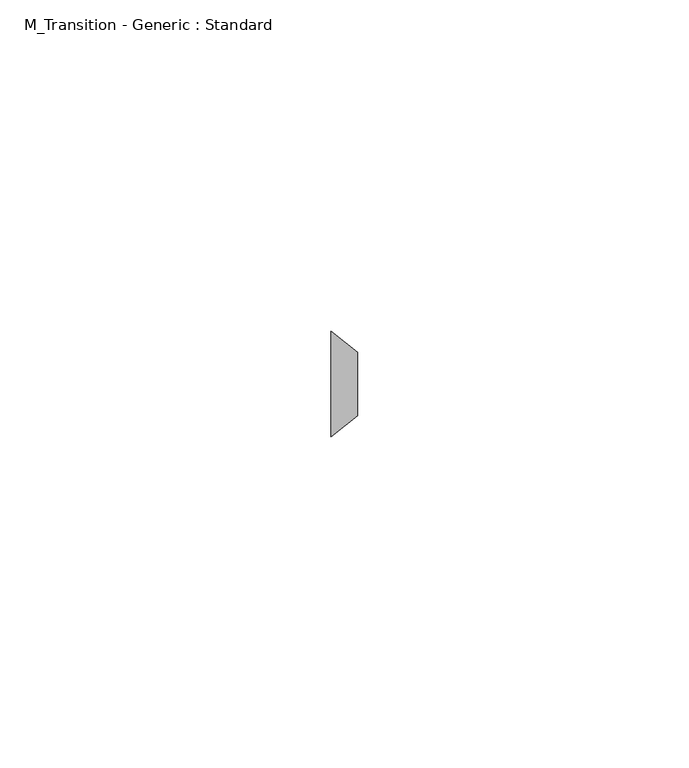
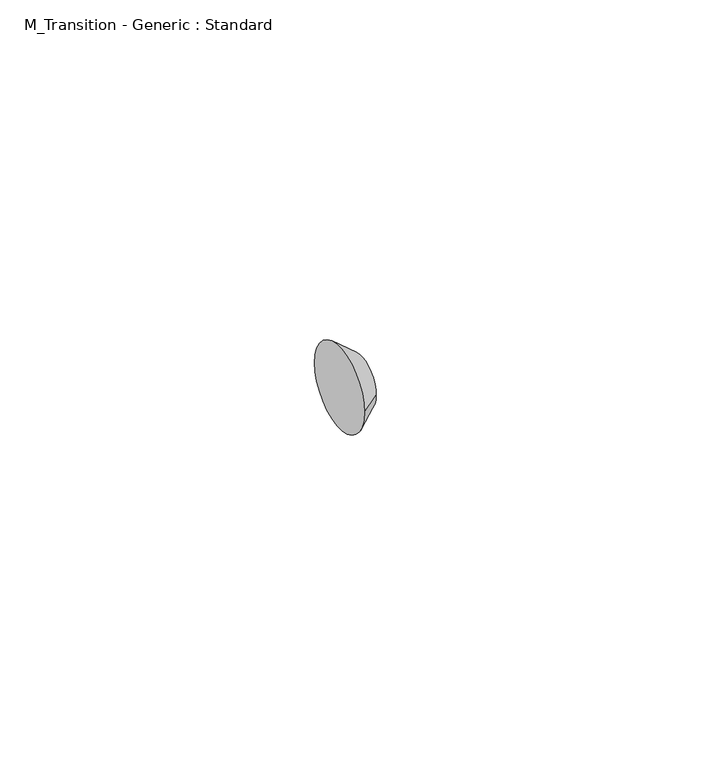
"""IFC4 building model written with IfcOpenShell, lengths in millimetres: pipe fitting geometry, M_Transition - Generic : Standard."""

from ifc_helpers import new_model, si_unit, frame, origin, place, context, project, spatial, polyline, circle_curve, source, transform, mapped, element, save
from ifc_brep_helpers import plane_surface, revolved_surface, advanced_brep


def m_transition_generic_standard_2d362458(model_context):
    return source(origin(), model_context, "Body", "AdvancedBrep", [
        advanced_brep(
        [(3.96875, 4.7875, 0.0), (3.96875, -4.7875, 0.0), (0.0, 7.9375, 0.0), (0.0, -7.9375, 0.0)],
        [
            (0, 1, circle_curve(frame((3.96875, 0.0, 0.0), z_axis=(1.0, 1.091393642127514e-12, 1.4029942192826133e-12), x_axis=(1.0913254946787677e-12, -1.0, 0.0)), 4.7875)),
            (1, 0, circle_curve(frame((3.96875, 0.0, 0.0), z_axis=(1.0, 1.091393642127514e-12, 1.4029942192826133e-12), x_axis=(-1.091325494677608e-12, 1.0, 0.0)), 4.7875)),
            (2, 3, circle_curve(frame((0.0, 0.0, 0.0), z_axis=(-1.0, -1.091393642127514e-12, -1.4029942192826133e-12), x_axis=(-1.091325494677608e-12, 1.0, 0.0)), 7.9375)),
            (3, 2, circle_curve(frame((0.0, 0.0, 0.0), z_axis=(-1.0, -1.091393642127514e-12, -1.4029942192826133e-12), x_axis=(1.0913254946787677e-12, -1.0, 0.0)), 7.9375)),
            (2, 0),
            (1, 3),
        ],
        [
            plane_surface(frame((3.96875, 0.0, 0.0), z_axis=(1.0, 0.0, 0.0), x_axis=(0.0, 0.0, -1.0))),
            plane_surface(frame((0.0, 0.0, 0.0), z_axis=(-1.0, 0.0, 0.0), x_axis=(0.0, 0.0, -1.0))),
            revolved_surface(polyline([(3.96875, 4.787499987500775, 0.0), (-1.7326584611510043e-11, 7.9375000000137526, 0.0)]), (10.00062, 0.0, 0.0), (-1.0, -1.091393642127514e-12, -1.4029942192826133e-12)),
            revolved_surface(polyline([(3.9687500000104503, -4.787499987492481, 0.0), (0.0, -7.9375, 0.0)]), (10.00062, 0.0, 0.0), (-1.0, -1.091393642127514e-12, -1.4029942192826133e-12)),
        ],
        [
            (0, [[1, 2]]),
            (1, [[3, 4]]),
            (2, [[5, -2, 6, -3]]),
            (3, [[-6, -1, -5, -4]]),
        ],
    ),
    ])


if __name__ == "__main__":
    model = new_model("IFC4")
    model_context = context("Model", 3, world=origin())
    ifc_project = project(units=[si_unit("LENGTHUNIT", "METRE", prefix="MILLI")], contexts=[model_context])
    site = spatial("IfcSite", under=ifc_project)
    building = spatial("IfcBuilding", under=site)
    placement = place(None, origin())
    m_transition_generic_standard_shape = m_transition_generic_standard_2d362458(model_context)
    element("IfcPipeFitting", 1, ObjectType="M_Transition - Generic : Standard", at=placement, inside=building, context=model_context, shape_type="MappedRepresentation", body=[
        mapped(m_transition_generic_standard_shape, transform((0.0, 0.0, 0.0), x_axis=(1.0, 0.0, 0.0), y_axis=(0.0, 1.0, 0.0), z_axis=(0.0, 0.0, 1.0))),
    ])
    save(model, "model.ifc")
